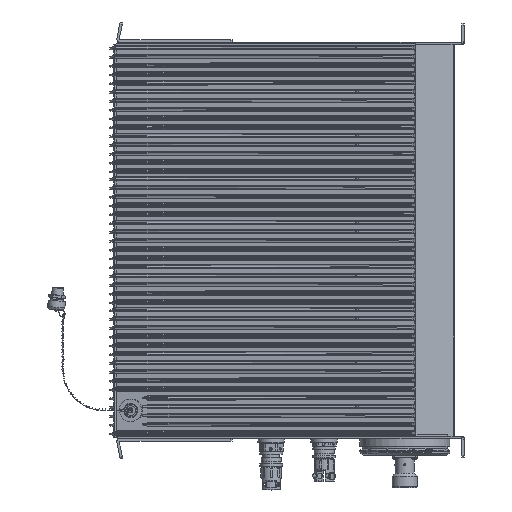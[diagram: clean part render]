
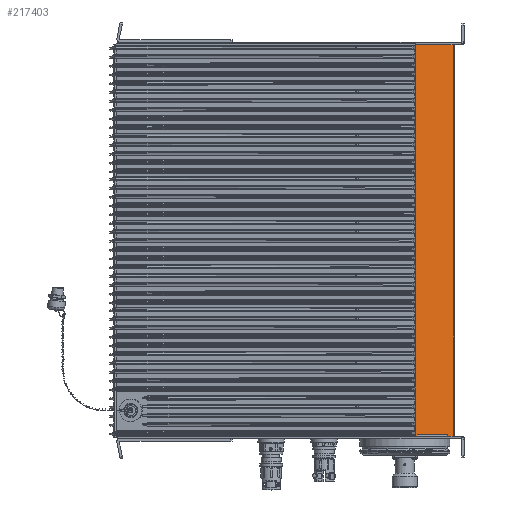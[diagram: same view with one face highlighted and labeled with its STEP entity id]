
A CAD part, top view. The second image highlights one B-rep face of the part: STEP entity #217403.
In plain terms, the highlighted planar face has unit normal (0.609, 0, 0.793).
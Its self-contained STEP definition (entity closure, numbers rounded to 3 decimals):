
#14421=LINE('',#324439,#31372);
#14522=LINE('',#324867,#31473);
#17421=LINE('',#331107,#34372);
#17456=LINE('',#331217,#34407);
#17459=LINE('',#331225,#34410);
#17475=LINE('',#331257,#34426);
#17476=LINE('',#331259,#34427);
#17477=LINE('',#331261,#34428);
#17478=LINE('',#331263,#34429);
#17479=LINE('',#331264,#34430);
#31372=VECTOR('',#247197,39.37);
#31473=VECTOR('',#247578,39.37);
#34372=VECTOR('',#251623,39.37);
#34407=VECTOR('',#251714,39.37);
#34410=VECTOR('',#251721,39.37);
#34426=VECTOR('',#251751,39.37);
#34427=VECTOR('',#251754,39.37);
#34428=VECTOR('',#251755,39.37);
#34429=VECTOR('',#251756,39.37);
#34430=VECTOR('',#251757,39.37);
#44335=PLANE('',#225924);
#76493=ORIENTED_EDGE('',*,*,#109369,.T.);
#76494=ORIENTED_EDGE('',*,*,#109440,.T.);
#76495=ORIENTED_EDGE('',*,*,#109441,.T.);
#76496=ORIENTED_EDGE('',*,*,#109442,.T.);
#76497=ORIENTED_EDGE('',*,*,#109418,.T.);
#76498=ORIENTED_EDGE('',*,*,#106085,.T.);
#76499=ORIENTED_EDGE('',*,*,#109439,.T.);
#76500=ORIENTED_EDGE('',*,*,#109443,.T.);
#76501=ORIENTED_EDGE('',*,*,#109422,.T.);
#76502=ORIENTED_EDGE('',*,*,#106277,.F.);
#106085=EDGE_CURVE('',#125095,#125094,#14421,.T.);
#106277=EDGE_CURVE('',#125281,#125282,#14522,.T.);
#109369=EDGE_CURVE('',#125281,#128004,#17421,.T.);
#109418=EDGE_CURVE('',#128034,#125095,#17456,.T.);
#109422=EDGE_CURVE('',#128036,#125282,#17459,.T.);
#109439=EDGE_CURVE('',#125094,#128045,#17475,.T.);
#109440=EDGE_CURVE('',#128004,#128046,#17476,.T.);
#109441=EDGE_CURVE('',#128046,#128047,#17477,.T.);
#109442=EDGE_CURVE('',#128047,#128034,#17478,.T.);
#109443=EDGE_CURVE('',#128045,#128036,#17479,.T.);
#125094=VERTEX_POINT('',#324438);
#125095=VERTEX_POINT('',#324440);
#125281=VERTEX_POINT('',#324866);
#125282=VERTEX_POINT('',#324868);
#128004=VERTEX_POINT('',#331106);
#128034=VERTEX_POINT('',#331218);
#128036=VERTEX_POINT('',#331223);
#128045=VERTEX_POINT('',#331256);
#128046=VERTEX_POINT('',#331260);
#128047=VERTEX_POINT('',#331262);
#138824=EDGE_LOOP('',(#76493,#76494,#76495,#76496,#76497,#76498,#76499,
#76500,#76501,#76502));
#148288=FACE_BOUND('',#138824,.T.);
#217403=ADVANCED_FACE('',(#148288),#44335,.T.);
#225924=AXIS2_PLACEMENT_3D('',#331258,#251752,#251753);
#247197=DIRECTION('',(0.793,0.,-0.609));
#247578=DIRECTION('',(0.793,0.,-0.609));
#251623=DIRECTION('',(-0.793,0.,0.609));
#251714=DIRECTION('',(0.,1.,0.));
#251721=DIRECTION('',(0.,1.,0.));
#251751=DIRECTION('',(0.,-1.,0.));
#251752=DIRECTION('',(0.609,0.,0.793));
#251753=DIRECTION('',(0.793,0.,-0.609));
#251754=DIRECTION('',(0.,-1.,0.));
#251755=DIRECTION('',(0.793,0.,-0.609));
#251756=DIRECTION('',(0.793,0.,-0.609));
#251757=DIRECTION('',(0.793,0.,-0.609));
#324438=CARTESIAN_POINT('',(-0.707,0.078,3.958));
#324439=CARTESIAN_POINT('',(-0.399,0.078,3.722));
#324440=CARTESIAN_POINT('',(-2.211,0.078,5.112));
#324866=CARTESIAN_POINT('',(-2.26,19.41,5.149));
#324867=CARTESIAN_POINT('',(-1.007,19.41,4.188));
#324868=CARTESIAN_POINT('',(-0.405,19.41,3.727));
#331106=CARTESIAN_POINT('',(-2.303,19.41,5.183));
#331107=CARTESIAN_POINT('',(-0.394,19.41,3.718));
#331217=CARTESIAN_POINT('',(-2.211,0.,5.112));
#331218=CARTESIAN_POINT('',(-2.211,0.,5.112));
#331223=CARTESIAN_POINT('',(-0.405,0.,3.727));
#331225=CARTESIAN_POINT('',(-0.405,0.,3.727));
#331256=CARTESIAN_POINT('',(-0.707,0.,3.958));
#331257=CARTESIAN_POINT('',(-0.707,0.,3.958));
#331258=CARTESIAN_POINT('',(-0.399,0.,3.722));
#331259=CARTESIAN_POINT('',(-2.303,4.412,5.183));
#331260=CARTESIAN_POINT('',(-2.303,0.,5.183));
#331261=CARTESIAN_POINT('',(-0.394,0.,3.718));
#331262=CARTESIAN_POINT('',(-2.26,0.,5.149));
#331263=CARTESIAN_POINT('',(-0.394,0.,3.718));
#331264=CARTESIAN_POINT('',(-0.394,0.,3.718));
